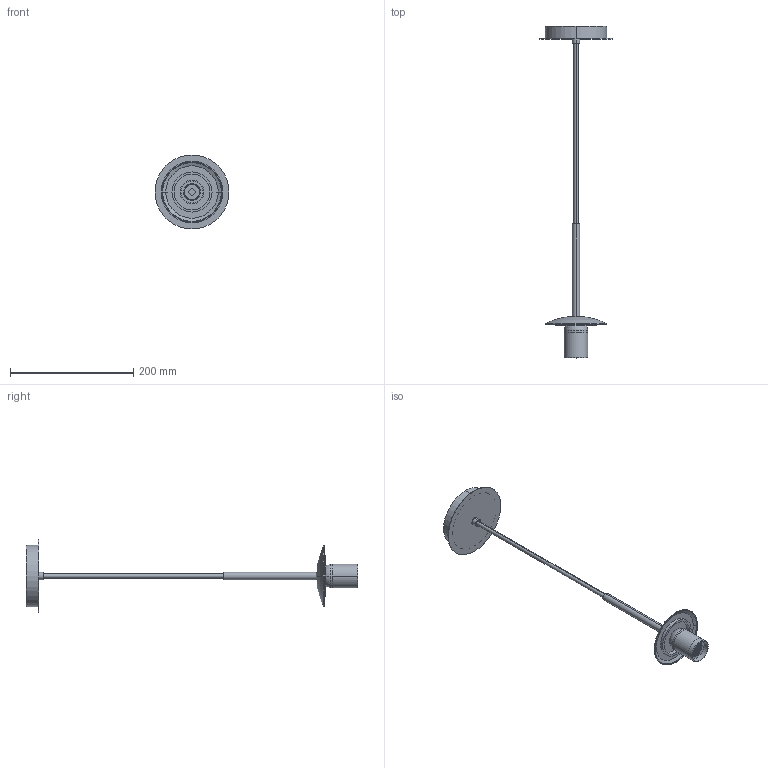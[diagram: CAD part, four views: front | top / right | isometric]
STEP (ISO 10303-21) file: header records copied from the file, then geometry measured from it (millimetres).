
FILE_DESCRIPTION (( 'STEP AP203' ), '1' );
FILE_NAME ('PARMA-C3946080-COLGANTE 1 LUZ SIN TULIPA.STEP', '2026-01-21T12:15:38', ( '' ), ( '' ), 'SwSTEP 2.0', 'SolidWorks 2025', '' );
FILE_SCHEMA (( 'CONFIG_CONTROL_DESIGN' ));
Length unit declared in the file: millimetre
Products named in the file (5): BaseParmaConCasquillo; Base Parma Shifa; ESTRUCTURA PARMA COLGANTE 1 LUZ; PARMA-C3946080-COLGANTE 1 LUZ SIN TULIPA; Portalamparas E27 Parma
Assembly tree (4 placements, depth 3):
  PARMA-C3946080-COLGANTE 1 LUZ SIN TULIPA
    ESTRUCTURA PARMA COLGANTE 1 LUZ
    BaseParmaConCasquillo
      Base Parma Shifa
      Portalamparas E27 Parma
Bounding box: 120 x 538.45 x 120 mm (x, y, z)
Volume: 265794.1 mm3; surface area: 89735.7 mm2
Topology: 7 solids, 7 shells, 82 faces, 169 edges, 106 vertices
Faces by surface type: cylinder 47, plane 21, torus 8, bspline 4, cone 2
Entity records: 3879 total; most frequent: CARTESIAN_POINT 1641, DIRECTION 395, ORIENTED_EDGE 338, AXIS2_PLACEMENT_3D 173, EDGE_CURVE 169, VERTEX_POINT 106, EDGE_LOOP 93, CIRCLE 87
